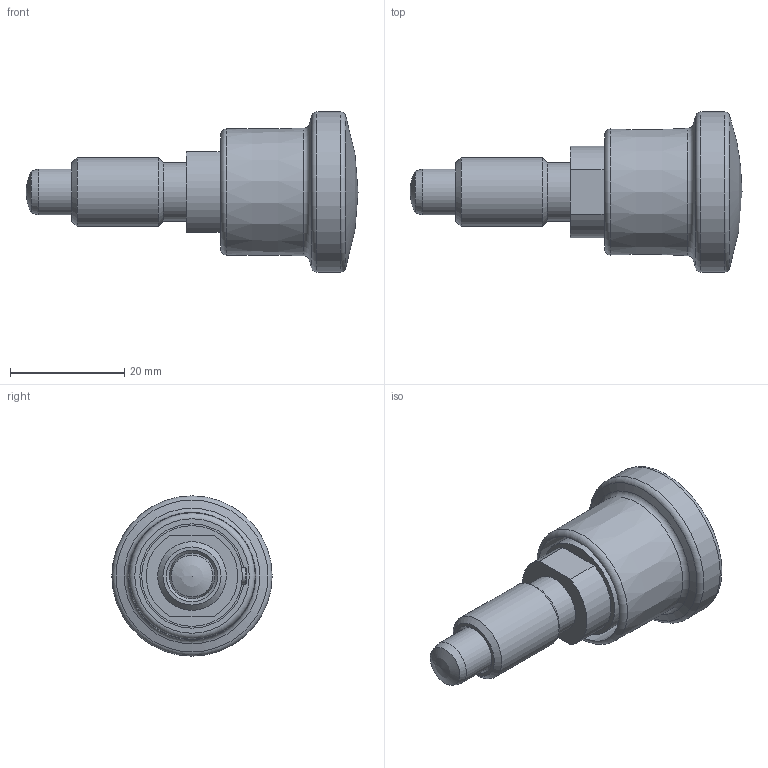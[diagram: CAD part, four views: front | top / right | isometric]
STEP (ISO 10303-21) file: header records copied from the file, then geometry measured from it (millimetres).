
FILE_DESCRIPTION( ( 'STEP AP203' ), '1' );
FILE_NAME( 'C:/Temp/Ganter_Step_05_03_2020/data/3_1/gn816/gn_816_ar/Locking plunger GN 816-8-M12x1,5-AR (deactivated).stp', '2020-03-12T08:55:44', ( 'License CC BY-ND 4.0' ), ( 'CADENAS' ), ' ', 'PARTsolutions', ' ' );
FILE_SCHEMA( ( 'CONFIG_CONTROL_DESIGN' ) );
Length unit declared in the file: millimetre
Products named in the file (3): Locking plunger GN 816-8-M12x1,5-AR (deactivated); _GN 816-8-M12x1,5-AR0-2; _GN 816-8-M12x1,5-AR (0)-1
Assembly tree (2 placements, depth 2):
  Locking plunger GN 816-8-M12x1,5-AR (deactivated)
    _GN 816-8-M12x1,5-AR0-2
    _GN 816-8-M12x1,5-AR (0)-1
Bounding box: 58 x 28 x 28 mm (x, y, z)
Volume: 11423.3 mm3; surface area: 9164.2 mm2
Topology: 2 solids, 2 shells, 54 faces, 107 edges, 65 vertices
Faces by surface type: cylinder 17, plane 17, cone 12, torus 6, sphere 2
Full cylindrical faces by diameter (mm): 2.9 x2, 3 x2, 5.9 x1, 6 x1, 8 x2, 10.2 x1, 11.1 x1, 12 x1, 14 x1, 18.2 x1, 20.017 x1, 28 x1
Entity records: 1560 total; most frequent: CARTESIAN_POINT 481, DIRECTION 220, ORIENTED_EDGE 128, AXIS2_PLACEMENT_3D 105, EDGE_LOOP 104, FACE_OUTER_BOUND 75, EDGE_CURVE 64, VERTEX_POINT 60
